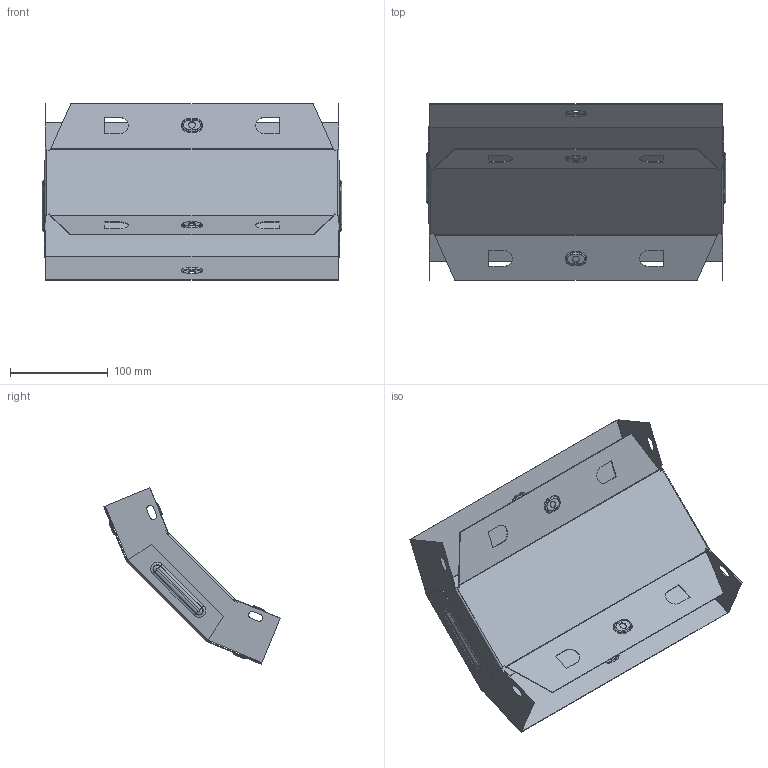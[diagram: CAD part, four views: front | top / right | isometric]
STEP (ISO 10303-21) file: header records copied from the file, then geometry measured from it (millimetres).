
FILE_DESCRIPTION (( 'STEP AP214' ), '1' );
FILE_NAME ('vo4550300_捘.STEP', '2019-06-10T08:19:16', ( '砐錪賧瘔蠈錪 Windows' ), ( '' ), 'SwSTEP 2.0', 'SolidWorks 2018', '' );
FILE_SCHEMA (( 'AUTOMOTIVE_DESIGN' ));
Length unit declared in the file: millimetre
Products named in the file (1): vo4550300_捘
Bounding box: 305.6 x 180.14 x 180.14 mm (x, y, z)
Volume: 121367.6 mm3; surface area: 306081.9 mm2
Topology: 2 solids, 2 shells, 368 faces, 906 edges, 564 vertices
Faces by surface type: plane 177, cylinder 110, torus 64, bspline 17
Entity records: 11466 total; most frequent: CARTESIAN_POINT 2595, DIRECTION 1860, ORIENTED_EDGE 1812, EDGE_CURVE 906, AXIS2_PLACEMENT_3D 652, VERTEX_POINT 564, LINE 556, VECTOR 556
